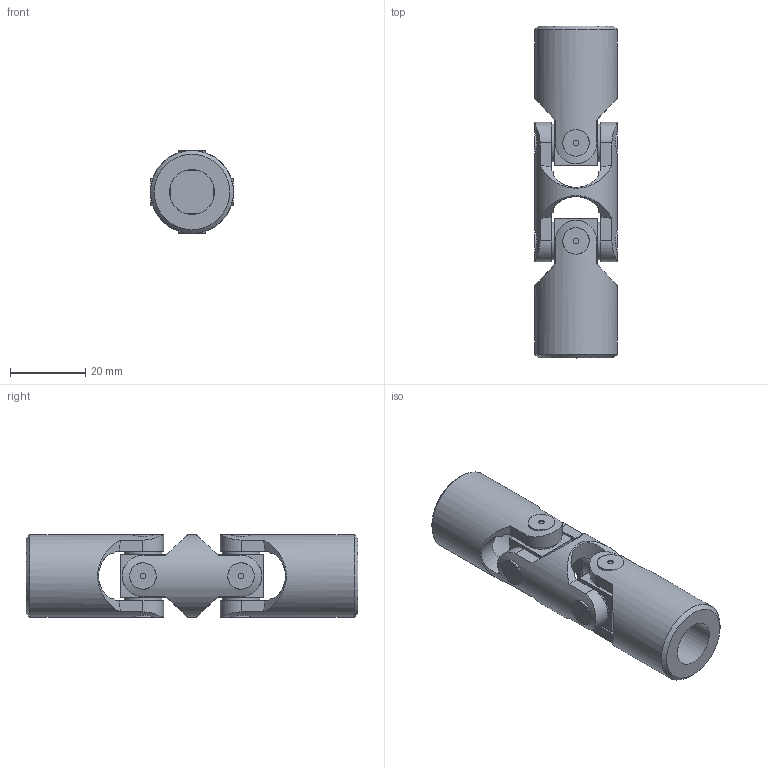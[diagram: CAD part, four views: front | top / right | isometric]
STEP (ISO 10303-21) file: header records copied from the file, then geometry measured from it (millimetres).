
FILE_DESCRIPTION(/* description */ (''),/* implementation_level */ '2;1');
FILE_NAME(/* name */ '\\SRV2016\Societa\Stefano\Disegni 3D\00Catalogo 3D\02Doppi GD-GBD\SGBD1200.stp',/* time_stamp */ '2021-11-22T17:05:39+01:00',/* author */ ('acquisti'),/* organization */ (''),/* preprocessor_version */ 'ST-DEVELOPER v15.6',/* originating_system */ 'Autodesk Inventor 2015',/* authorisation */ '');
FILE_SCHEMA (('AUTOMOTIVE_DESIGN { 1 0 10303 214 3 1 1 }'));
Length unit declared in the file: millimetre
Products named in the file (4): 03G MOD; 03G SFE; 04GB MOS; Ø22_04GBD-00_SGBD1200
Assembly tree (5 placements, depth 2):
  Ø22_04GBD-00_SGBD1200
    03G MOD
    03G SFE  x2
    04GB MOS  x2
Bounding box: 22 x 88 x 22 mm (x, y, z)
Volume: 21417 mm3; surface area: 11581.1 mm2
Topology: 5 solids, 5 shells, 140 faces, 320 edges, 208 vertices
Faces by surface type: plane 70, cylinder 46, cone 18, torus 6
Full cylindrical faces by diameter (mm): 1.5 x8, 10 x8, 11.5 x1, 12 x2, 22 x3
Entity records: 3299 total; most frequent: CARTESIAN_POINT 1204, ORIENTED_EDGE 406, DIRECTION 404, EDGE_CURVE 203, AXIS2_PLACEMENT_3D 178, VERTEX_POINT 143, EDGE_LOOP 130, FACE_OUTER_BOUND 96
